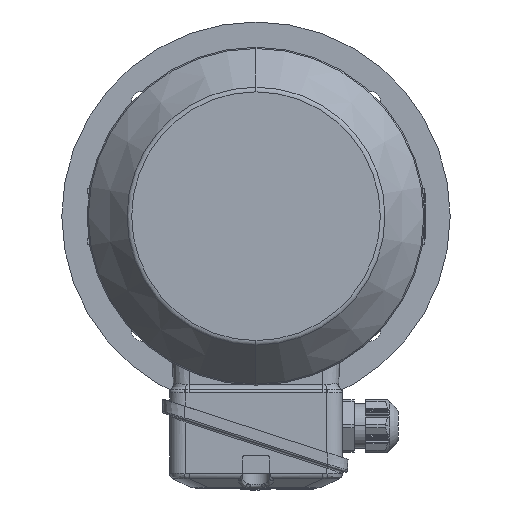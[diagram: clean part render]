
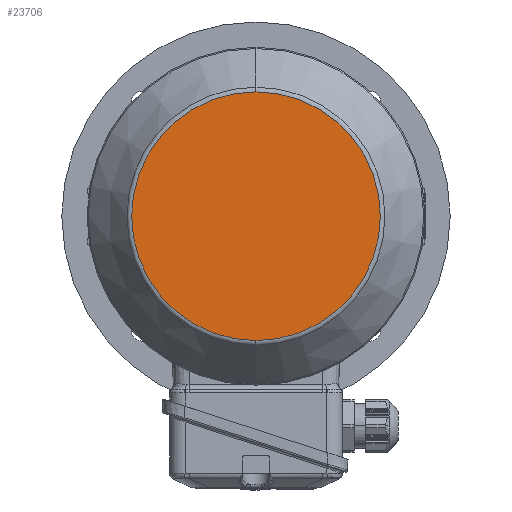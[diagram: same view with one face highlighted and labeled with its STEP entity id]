
A CAD part, left-side view. The second image highlights one B-rep face of the part: STEP entity #23706.
In plain terms, the highlighted planar face has unit normal (-1, 0, 0).
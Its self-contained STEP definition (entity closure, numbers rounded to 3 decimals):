
#4578 = FACE_OUTER_BOUND ( 'NONE', #18988, .T. ) ;
#5189 = CIRCLE ( 'NONE', #37728, 64.037 ) ;
#6273 = ORIENTED_EDGE ( 'NONE', *, *, #23544, .F. ) ;
#8440 = CARTESIAN_POINT ( 'NONE',  ( -164., 0., -64.037 ) ) ;
#10568 = VERTEX_POINT ( 'NONE', #31157 ) ;
#11728 = CARTESIAN_POINT ( 'NONE',  ( -164., 0., 0. ) ) ;
#15437 = DIRECTION ( 'NONE',  ( 0., 1., 0. ) ) ;
#18988 = EDGE_LOOP ( 'NONE', ( #45333, #6273 ) ) ;
#23544 = EDGE_CURVE ( 'NONE', #10568, #43381, #28438, .T. ) ;
#23706 = ADVANCED_FACE ( 'NONE', ( #4578 ), #31272, .T. ) ;
#23962 = AXIS2_PLACEMENT_3D ( 'NONE', #8440, #35087, #15437 ) ;
#26390 = DIRECTION ( 'NONE',  ( 0., 0., -1. ) ) ;
#28434 = AXIS2_PLACEMENT_3D ( 'NONE', #41444, #29942, #49465 ) ;
#28438 = CIRCLE ( 'NONE', #28434, 64.037 ) ;
#29942 = DIRECTION ( 'NONE',  ( 1., 0., 0. ) ) ;
#31157 = CARTESIAN_POINT ( 'NONE',  ( -164., 0., 64.037 ) ) ;
#31272 = PLANE ( 'NONE',  #23962 ) ;
#33357 = EDGE_CURVE ( 'NONE', #43381, #10568, #5189, .T. ) ;
#35087 = DIRECTION ( 'NONE',  ( -1., 0., 0. ) ) ;
#37728 = AXIS2_PLACEMENT_3D ( 'NONE', #11728, #45748, #26390 ) ;
#41444 = CARTESIAN_POINT ( 'NONE',  ( -164., 0., 0. ) ) ;
#43381 = VERTEX_POINT ( 'NONE', #48380 ) ;
#45333 = ORIENTED_EDGE ( 'NONE', *, *, #33357, .F. ) ;
#45748 = DIRECTION ( 'NONE',  ( 1., 0., 0. ) ) ;
#48380 = CARTESIAN_POINT ( 'NONE',  ( -164., 0., -64.037 ) ) ;
#49465 = DIRECTION ( 'NONE',  ( 0., 0., -1. ) ) ;
